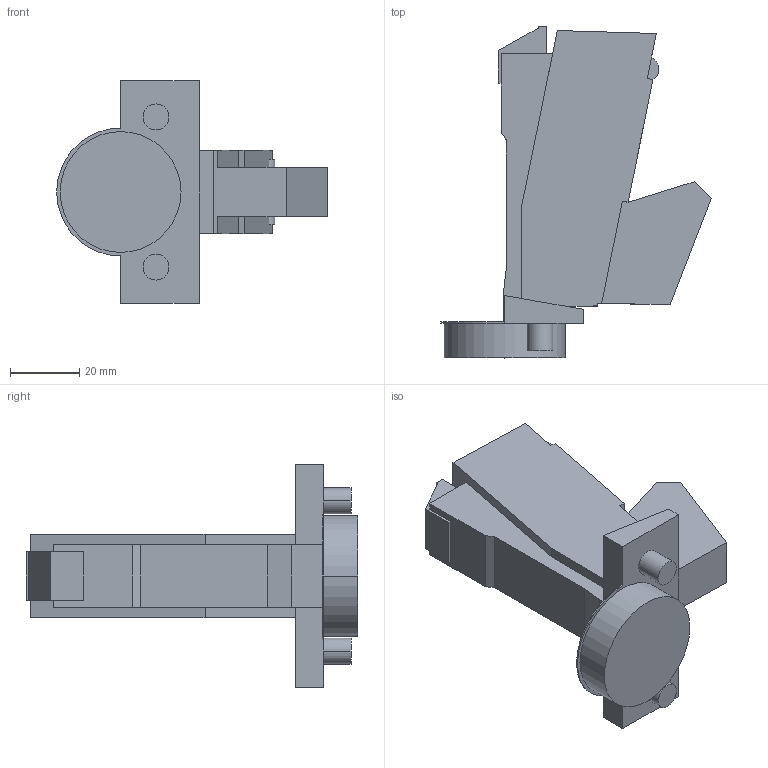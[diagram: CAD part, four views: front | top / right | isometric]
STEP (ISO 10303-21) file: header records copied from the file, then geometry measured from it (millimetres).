
FILE_DESCRIPTION (( 'STEP AP214' ), '1' );
FILE_NAME ('Scharnier T Impresso 160° GB_BB, K03.step', '2010-12-13T10:13:11', ( 'grass' ), ( '' ), 'SwSTEP 2.0', 'SolidWorks 2010', '' );
FILE_SCHEMA (( 'AUTOMOTIVE_DESIGN' ));
Length unit declared in the file: millimetre
Products named in the file (1): Scharnier T Impresso 160° GB_BB, K03
Bounding box: 78.34 x 96.09 x 64.5 mm (x, y, z)
Volume: 95651.9 mm3; surface area: 19522.1 mm2
Topology: 1 solids, 3 shells, 68 faces, 173 edges, 114 vertices
Faces by surface type: plane 55, cylinder 13
Entity records: 2061 total; most frequent: CARTESIAN_POINT 356, ORIENTED_EDGE 346, DIRECTION 337, EDGE_CURVE 173, VECTOR 147, LINE 147, VERTEX_POINT 114, AXIS2_PLACEMENT_3D 95
